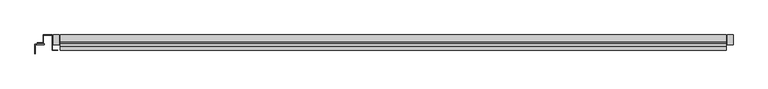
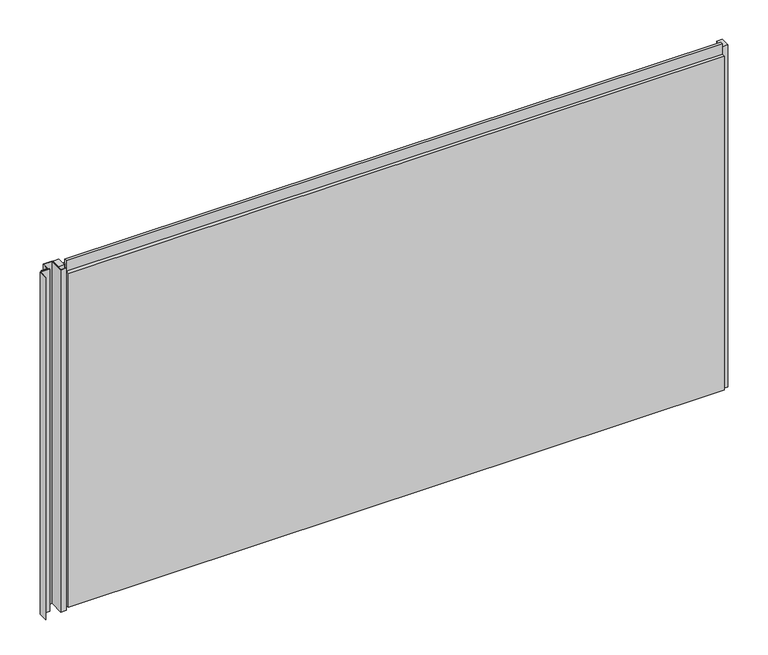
"""IFC4 building model written with IfcOpenShell, lengths in millimetres: plate geometry, Trimo_Qbiss Screen_Normal Panel-HORIZONTAL : HR - B-F."""

from ifc_helpers import new_model, si_unit, frame, origin, place, context, project, spatial, polyline, outline, extrude, source, transform, mapped, element, save


def plate_8ee23213(model_context):
    return source(origin(), model_context, "Body", "SweptSolid", [
        extrude(outline(polyline([(-1059.5, 50.0), (-1059.5, 49.2), (-1077.8, 49.2), (-1077.8, 99.1967741), (-1106.2, 99.1967741), (-1106.2, 74.2), (-1126.2, 74.2), (-1126.2, 72.8), (-1112.0, 72.8), (-1112.0, 72.0), (-1127.0, 72.0), (-1127.0, 75.0), (-1107.0, 75.0), (-1107.0, 100.0), (-1077.0, 100.0), (-1077.0, 50.0), (-1059.5, 50.0)])), frame((0.0, 0.0, -1.0), z_axis=(0.0, 0.0, 1.0), x_axis=(1.0, 0.0, 0.0)), (0.0, 0.0, 1.0), 1200.0),
        extrude(outline(polyline([(-1103.0, 71.0), (-1103.0, 68.0), (-1133.2272593, 68.0), (-1133.2272593, 38.5929448), (-1134.0, 38.8), (-1134.0, 68.8), (-1103.8, 68.8), (-1103.8, 70.2), (-1127.0, 70.2), (-1127.0, 71.0), (-1103.0, 71.0)])), frame((0.0, 0.0, -1.0), z_axis=(0.0, 0.0, 1.0), x_axis=(1.0, 0.0, 0.0)), (0.0, 0.0, 1.0), 1200.0),
        extrude(outline(polyline([(-1055.0, 67.8978162), (-1074.0, 67.8978162), (-1074.0, 100.0), (-1055.0, 100.0), (-1055.0, 67.8978162)])), frame((0.0, 0.0, -1.0), z_axis=(0.0, 0.0, 1.0), x_axis=(1.0, 0.0, 0.0)), (0.0, 0.0, 1.0), 1200.0),
        extrude(outline(polyline([(1144.5, 67.8978162), (1125.5, 67.8978162), (1125.5, 100.0), (1144.5, 100.0), (1144.5, 67.8978162)])), frame((0.0, 0.0, -1.0), z_axis=(0.0, 0.0, 1.0), x_axis=(1.0, 0.0, 0.0)), (0.0, 0.0, 1.0), 1200.0),
        extrude(outline(polyline([(1122.5, 76.0), (1122.5, 71.0), (-1052.0, 71.0), (-1052.0, 76.0), (1122.5, 76.0)])), frame((0.0, 0.0, 1178.0), z_axis=(0.0, 0.0, 1.0), x_axis=(1.0, 0.0, 0.0)), (0.0, 0.0, 1.0), 21.0),
        extrude(outline(polyline([(71.0, 1177.0), (100.0, 1177.0), (100.0, 0.0), (72.0, 0.0), (72.0, 15.5), (62.0, 15.5), (62.0, 7.0), (50.0, 7.0), (50.0, 1177.0), (63.0, 1177.0), (63.0, 1214.5), (71.0, 1214.5), (71.0, 1177.0)])), frame((-1052.0, 0.0, 0.0), z_axis=(1.0, 0.0, 0.0), x_axis=(0.0, 1.0, 0.0)), (0.0, 0.0, 1.0), 2174.5),
    ])


if __name__ == "__main__":
    model = new_model("IFC4")
    model_context = context("Model", 3, world=origin())
    ifc_project = project(units=[si_unit("LENGTHUNIT", "METRE", prefix="MILLI")], contexts=[model_context])
    site = spatial("IfcSite", under=ifc_project)
    building = spatial("IfcBuilding", under=site)
    placement = place(None, origin())
    plate_shape = plate_8ee23213(model_context)
    element("IfcPlate", 1, ObjectType="Trimo_Qbiss Screen_Normal Panel-HORIZONTAL : HR - B-F", at=placement, inside=building, context=model_context, shape_type="MappedRepresentation", body=[
        mapped(plate_shape, transform((0.0, 0.0, 0.0), x_axis=(1.0, 0.0, 0.0), y_axis=(0.0, 1.0, 0.0), z_axis=(0.0, 0.0, 1.0))),
    ])
    save(model, "model.ifc")
